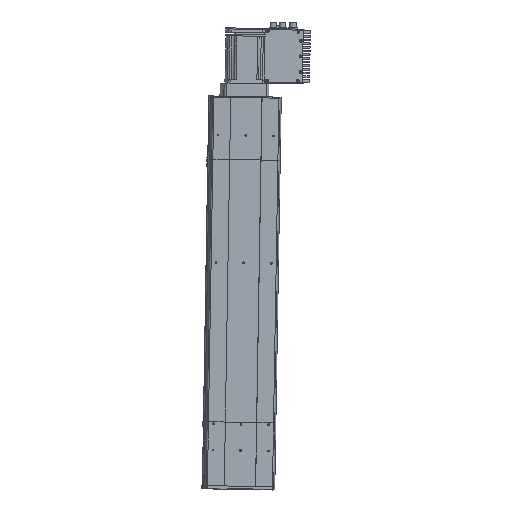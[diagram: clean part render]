
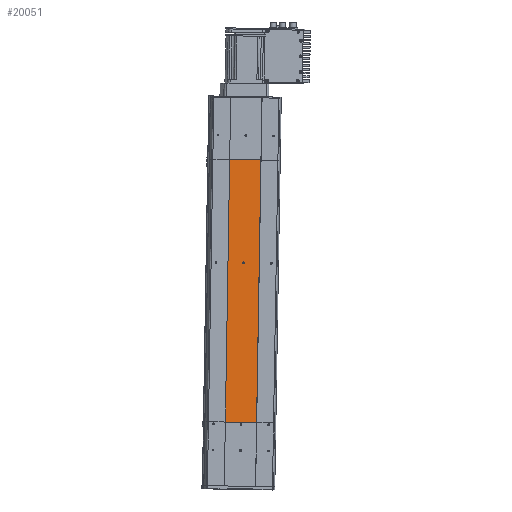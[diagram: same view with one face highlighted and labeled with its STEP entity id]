
A CAD part, front view. The second image highlights one B-rep face of the part: STEP entity #20051.
In plain terms, the highlighted planar face has unit normal (0.098, -0.995, 0.002) as drawn and (0, -1, 0) by its records, which use the part's own axes.
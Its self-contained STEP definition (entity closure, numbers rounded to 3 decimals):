
#142 = CARTESIAN_POINT ( 'NONE',  ( 0., -32.5, 155.3 ) ) ;
#151 = CIRCLE ( 'NONE', #230, 1.6 ) ;
#227 = DIRECTION ( 'NONE',  ( 0., 0., -1. ) ) ;
#228 = DIRECTION ( 'NONE',  ( 0., -1., 0. ) ) ;
#229 = CARTESIAN_POINT ( 'NONE',  ( 0., -32.5, 153.7 ) ) ;
#230 = AXIS2_PLACEMENT_3D ( 'NONE', #229, #228, #227 ) ;
#236 = CARTESIAN_POINT ( 'NONE',  ( 0., -32.5, 152.1 ) ) ;
#466 = DIRECTION ( 'NONE',  ( 0., 0., 1. ) ) ;
#468 = DIRECTION ( 'NONE',  ( 0., 1., 0. ) ) ;
#472 = CARTESIAN_POINT ( 'NONE',  ( -30., -32.5, 350. ) ) ;
#474 = LINE ( 'NONE', #472, #497 ) ;
#476 = FACE_BOUND ( 'NONE', #20044, .T. ) ;
#484 = AXIS2_PLACEMENT_3D ( 'NONE', #513, #468, #466 ) ;
#486 = DIRECTION ( 'NONE',  ( 1., 0., 0. ) ) ;
#488 = FACE_OUTER_BOUND ( 'NONE', #20045, .T. ) ;
#497 = VECTOR ( 'NONE', #486, 1000. ) ;
#500 = PLANE ( 'NONE',  #484 ) ;
#513 = CARTESIAN_POINT ( 'NONE',  ( -30., -32.5, 350. ) ) ;
#516 = CARTESIAN_POINT ( 'NONE',  ( -30., -32.5, -150. ) ) ;
#584 = CARTESIAN_POINT ( 'NONE',  ( 30., -32.5, -150. ) ) ;
#594 = VECTOR ( 'NONE', #719, 1000. ) ;
#596 = CARTESIAN_POINT ( 'NONE',  ( -30., -32.5, -150. ) ) ;
#598 = LINE ( 'NONE', #596, #594 ) ;
#601 = CARTESIAN_POINT ( 'NONE',  ( -30., -32.5, 350. ) ) ;
#602 = CARTESIAN_POINT ( 'NONE',  ( 30., -32.5, 350. ) ) ;
#609 = CIRCLE ( 'NONE', #708, 1.6 ) ;
#666 = DIRECTION ( 'NONE',  ( 0., 0., -1. ) ) ;
#667 = VECTOR ( 'NONE', #666, 1000. ) ;
#669 = CARTESIAN_POINT ( 'NONE',  ( -30., -32.5, 350. ) ) ;
#671 = LINE ( 'NONE', #669, #667 ) ;
#692 = DIRECTION ( 'NONE',  ( 0., 0., -1. ) ) ;
#694 = DIRECTION ( 'NONE',  ( 0., -1., 0. ) ) ;
#696 = CARTESIAN_POINT ( 'NONE',  ( 0., -32.5, 153.7 ) ) ;
#708 = AXIS2_PLACEMENT_3D ( 'NONE', #696, #694, #692 ) ;
#719 = DIRECTION ( 'NONE',  ( 1., 0., 0. ) ) ;
#780 = DIRECTION ( 'NONE',  ( 0., 0., -1. ) ) ;
#781 = VECTOR ( 'NONE', #780, 1000. ) ;
#783 = CARTESIAN_POINT ( 'NONE',  ( 30., -32.5, 350. ) ) ;
#785 = LINE ( 'NONE', #783, #781 ) ;
#19947 = VERTEX_POINT ( 'NONE', #142 ) ;
#19951 = EDGE_CURVE ( 'NONE', #19947, #19952, #151, .T. ) ;
#19952 = VERTEX_POINT ( 'NONE', #236 ) ;
#20041 = ORIENTED_EDGE ( 'NONE', *, *, #20095, .T. ) ;
#20044 = EDGE_LOOP ( 'NONE', ( #20048, #20093 ) ) ;
#20045 = EDGE_LOOP ( 'NONE', ( #20055, #20061, #20134, #20041 ) ) ;
#20048 = ORIENTED_EDGE ( 'NONE', *, *, #20089, .F. ) ;
#20050 = EDGE_CURVE ( 'NONE', #20094, #20086, #474, .T. ) ;
#20051 = ADVANCED_FACE ( 'NONE', ( #488, #476 ), #500, .F. ) ;
#20054 = VERTEX_POINT ( 'NONE', #516 ) ;
#20055 = ORIENTED_EDGE ( 'NONE', *, *, #20085, .T. ) ;
#20061 = ORIENTED_EDGE ( 'NONE', *, *, #20133, .F. ) ;
#20085 = EDGE_CURVE ( 'NONE', #20054, #20090, #598, .T. ) ;
#20086 = VERTEX_POINT ( 'NONE', #602 ) ;
#20089 = EDGE_CURVE ( 'NONE', #19952, #19947, #609, .T. ) ;
#20090 = VERTEX_POINT ( 'NONE', #584 ) ;
#20093 = ORIENTED_EDGE ( 'NONE', *, *, #19951, .F. ) ;
#20094 = VERTEX_POINT ( 'NONE', #601 ) ;
#20095 = EDGE_CURVE ( 'NONE', #20094, #20054, #671, .T. ) ;
#20133 = EDGE_CURVE ( 'NONE', #20086, #20090, #785, .T. ) ;
#20134 = ORIENTED_EDGE ( 'NONE', *, *, #20050, .F. ) ;
